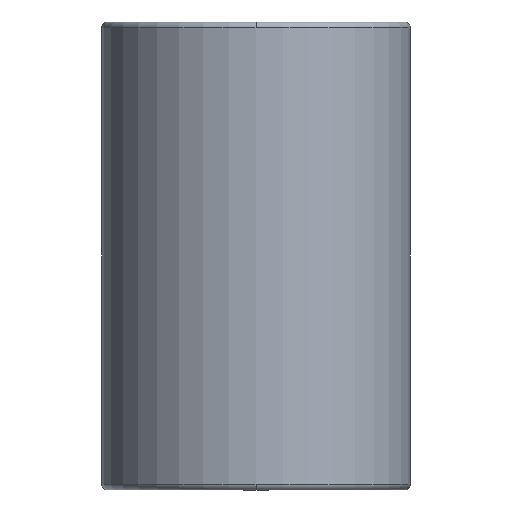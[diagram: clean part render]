
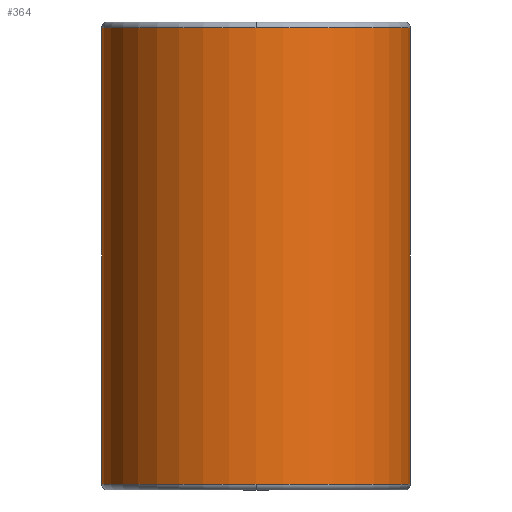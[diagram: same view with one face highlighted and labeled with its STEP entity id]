
A CAD part, front view. The second image highlights one B-rep face of the part: STEP entity #364.
In plain terms, the highlighted cylindrical face has radius 55.992 mm (diameter 111.984 mm), a partial arc.
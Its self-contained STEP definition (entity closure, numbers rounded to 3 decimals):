
#269=CARTESIAN_POINT('',(0.0,-55.992,168.));
#270=VERTEX_POINT('',#269);
#296=CARTESIAN_POINT('',(-55.992,0.,168.));
#297=VERTEX_POINT('',#296);
#305=CARTESIAN_POINT('',(0.0,0.,168.));
#306=DIRECTION('',(0.0,0.0,1.0));
#307=DIRECTION('',(1.0,0.0,0.0));
#308=AXIS2_PLACEMENT_3D('',#305,#306,#307);
#309=CIRCLE('',#308,55.992);
#310=EDGE_CURVE('',#297,#270,#309,.T.);
#315=CARTESIAN_POINT('',(0.0,0.,85.));
#316=DIRECTION('',(0.0,0.,1.0));
#317=DIRECTION('',(1.0,0.0,0.0));
#318=AXIS2_PLACEMENT_3D('',#315,#316,#317);
#319=CYLINDRICAL_SURFACE('',#318,55.992);
#320=CARTESIAN_POINT('',(55.992,0.,168.));
#321=VERTEX_POINT('',#320);
#322=CARTESIAN_POINT('',(55.992,0.,2.));
#323=VERTEX_POINT('',#322);
#324=CARTESIAN_POINT('',(55.992,0.,168.));
#325=DIRECTION('',(0.0,0.0,-1.0));
#326=VECTOR('',#325,166.);
#327=LINE('',#324,#326);
#328=EDGE_CURVE('',#321,#323,#327,.T.);
#329=ORIENTED_EDGE('',*,*,#328,.F.);
#330=CARTESIAN_POINT('',(0.0,0.,168.));
#331=DIRECTION('',(0.0,0.0,1.0));
#332=DIRECTION('',(1.0,0.0,0.0));
#333=AXIS2_PLACEMENT_3D('',#330,#331,#332);
#334=CIRCLE('',#333,55.992);
#335=EDGE_CURVE('',#270,#321,#334,.T.);
#336=ORIENTED_EDGE('',*,*,#335,.F.);
#337=ORIENTED_EDGE('',*,*,#310,.F.);
#338=CARTESIAN_POINT('',(-55.992,0.,2.0));
#339=VERTEX_POINT('',#338);
#340=CARTESIAN_POINT('',(-55.992,0.,168.));
#341=DIRECTION('',(0.0,0.0,-1.0));
#342=VECTOR('',#341,166.);
#343=LINE('',#340,#342);
#344=EDGE_CURVE('',#297,#339,#343,.T.);
#345=ORIENTED_EDGE('',*,*,#344,.T.);
#346=CARTESIAN_POINT('',(0.0,-55.992,2.));
#347=VERTEX_POINT('',#346);
#348=CARTESIAN_POINT('',(0.0,0.,2.0));
#349=DIRECTION('',(0.0,0.0,1.0));
#350=DIRECTION('',(1.0,0.0,0.0));
#351=AXIS2_PLACEMENT_3D('',#348,#349,#350);
#352=CIRCLE('',#351,55.992);
#353=EDGE_CURVE('',#339,#347,#352,.T.);
#354=ORIENTED_EDGE('',*,*,#353,.T.);
#355=CARTESIAN_POINT('',(0.0,0.,2.0));
#356=DIRECTION('',(0.0,0.0,1.0));
#357=DIRECTION('',(1.0,0.0,0.0));
#358=AXIS2_PLACEMENT_3D('',#355,#356,#357);
#359=CIRCLE('',#358,55.992);
#360=EDGE_CURVE('',#347,#323,#359,.T.);
#361=ORIENTED_EDGE('',*,*,#360,.T.);
#362=EDGE_LOOP('',(#329,#336,#337,#345,#354,#361));
#363=FACE_OUTER_BOUND('',#362,.T.);
#364=ADVANCED_FACE('',(#363),#319,.T.);
